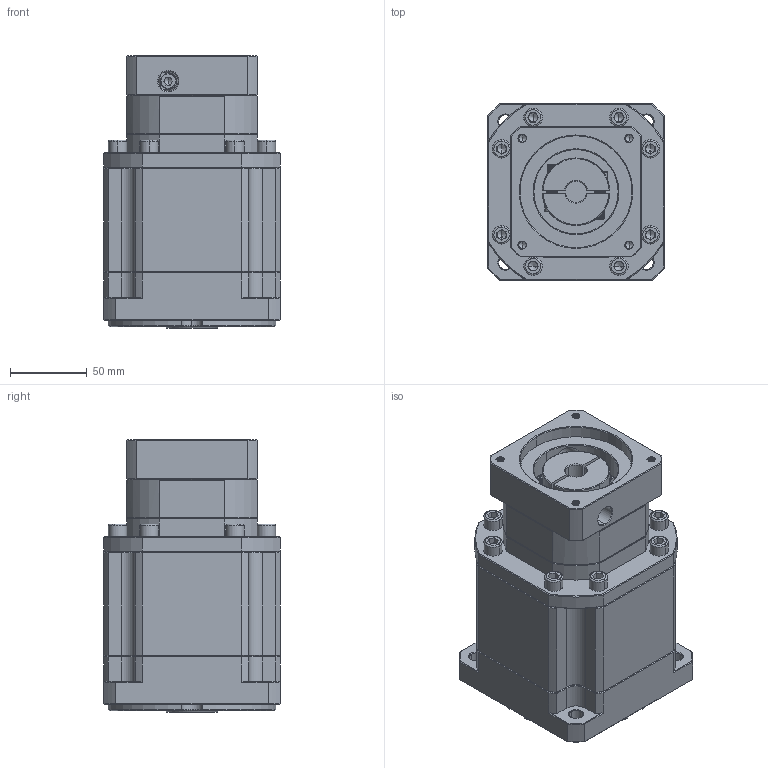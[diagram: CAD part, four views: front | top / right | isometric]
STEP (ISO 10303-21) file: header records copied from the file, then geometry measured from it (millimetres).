
FILE_DESCRIPTION (( 'STEP AP214' ), '1' );
FILE_NAME ('ZB115A-K25-L3-P2-14-73-69.6X69.6-M6.step', '2023-08-26T10:05:20', ( '' ), ( '' ), 'SwSTEP 2.0', 'SolidWorks 2016', '' );
FILE_SCHEMA (( 'AUTOMOTIVE_DESIGN' ));
Length unit declared in the file: millimetre
Products named in the file (1): ZB115A-K25-L3-P2-14-73-69.6X69.6-M6
Bounding box: 115 x 115 x 177.5 mm (x, y, z)
Volume: 1642432.9 mm3; surface area: 143591 mm2
Topology: 5 solids, 6 shells, 2359 faces, 6191 edges, 3934 vertices
Faces by surface type: plane 1183, bspline 418, cylinder 393, cone 350, torus 15
Entity records: 123000 total; most frequent: CARTESIAN_POINT 42331, ORIENTED_EDGE 12310, DIRECTION 9785, EDGE_CURVE 6155, VECTOR 3989, LINE 3989, VERTEX_POINT 3934, AXIS2_PLACEMENT_3D 2898
